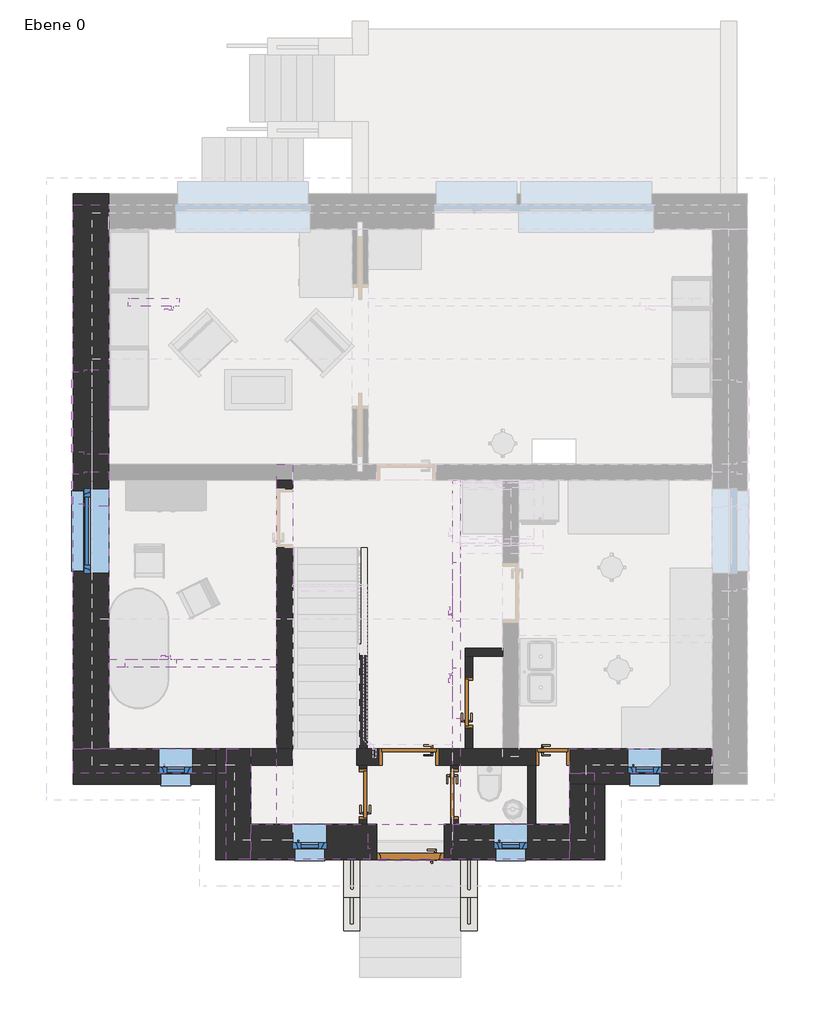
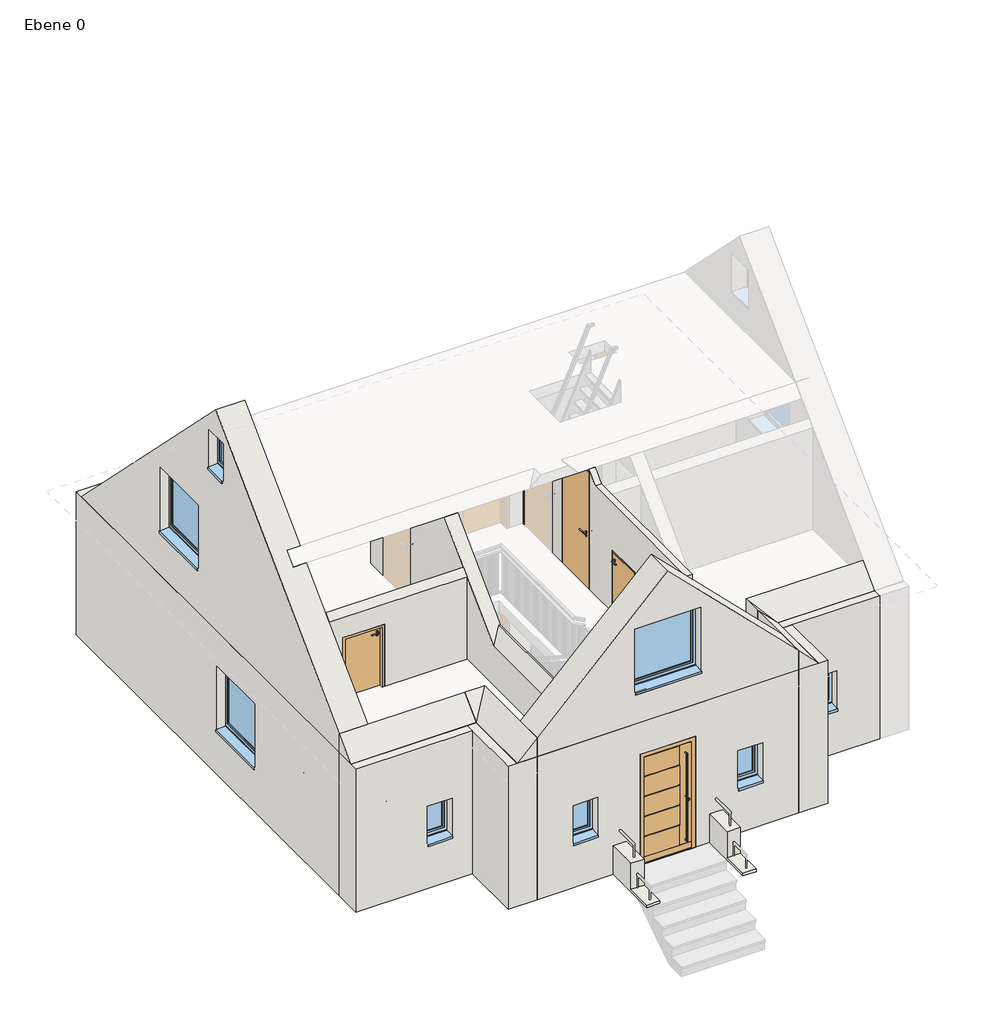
# One storey, part 1 of 3: 26 walls, 10 doors, 8 windows.
"""IFC4 building model written with IfcOpenShell, lengths in millimetres."""

from ifc_helpers import new_model, si_unit, frame, origin, place, context, project, spatial, polyline, outline, extrude, faceted_brep, transform, mapped, element, save
from components import door_d76ddd33, door_2d55e884, door_c0c9e2e8, door_1d4fa7a0, door_ae18e9e7, ml_1010_x_2135_97191e1a, ml_510_x_2137_2d006b58, ml_760_x_1200_513c8107, ml_760_x_1200_4ba6731c, fe_1_tlg_drehkipp_1260_x_1260_6cbcbbed, fe_1_tlg_drehkipp_510_x_760_2ecf23b0

model = new_model("IFC4")

# Units and contexts
model_context = context("Model", 3, world=origin())
ifc_project = project(units=[si_unit("LENGTHUNIT", "METRE", prefix="MILLI")], contexts=[model_context])

# Site, building, storey
site = spatial("IfcSite", under=ifc_project)
building = spatial("IfcBuilding", under=site)
storey = spatial("IfcBuildingStorey", under=building, Name="Ebene 0", Elevation=1000.0)

# Doors
placement = place(None, origin())
door_shape = door_d76ddd33(model_context)
element("IfcDoor", 1, ObjectType="TU DF 1 - Rahmenstock flächenbündig variabel : ML - H - 885 x 2260", at=placement, inside=storey, context=model_context, shape_type="MappedRepresentation", body=[
    mapped(door_shape, transform((3622.5, 2182.5, 1000.0), x_axis=(0.0, 1.0, 0.0), y_axis=(-1.0, 0.0, 0.0), z_axis=(0.0, 0.0, 1.0))),
])
door_2_shape = door_2d55e884(model_context)
element("IfcDoor", 2, ObjectType="TU DF 1 - Rahmenstock flächenbündig variabel : ML - H - 885 x 2260", at=placement, inside=storey, context=model_context, shape_type="MappedRepresentation", body=[
    mapped(door_2_shape, transform((3402.5, 811.4208156, 1000.0), x_axis=(0.0, -1.0, 0.0), y_axis=(1.0, 0.0, 0.0), z_axis=(0.0, 0.0, 1.0))),
])
door_3_shape = door_c0c9e2e8(model_context)
element("IfcDoor", 3, ObjectType="TU DF 1 - Rahmenstock flächenbündig variabel : ML - H - 885 x 2260", at=placement, inside=storey, context=model_context, shape_type="MappedRepresentation", body=[
    mapped(door_3_shape, transform((3432.5, 3837.5, 3750.0), x_axis=(0.0, 1.0, 0.0), y_axis=(-1.0, 0.0, 0.0), z_axis=(0.0, 0.0, 1.0))),
])
door_4_shape = door_1d4fa7a0(model_context)
element("IfcDoor", 4, ObjectType="TU DF 1 - Rahmenstock flächenbündig variabel : ML - H - 885 x 2010", at=placement, inside=storey, context=model_context, shape_type="MappedRepresentation", body=[
    mapped(door_4_shape, transform((2037.5, 811.4208156, 1000.0), x_axis=(0.0, 1.0, 0.0), y_axis=(-1.0, 0.0, 0.0), z_axis=(0.0, 0.0, 1.0))),
])
door_5_shape = door_ae18e9e7(model_context)
element("IfcDoor", 5, ObjectType="TU DF 1 - Rahmenstock flächenbündig variabel : ML - H - 885 x 2010", at=placement, inside=storey, context=model_context, shape_type="MappedRepresentation", body=[
    mapped(door_5_shape, transform((2725.0, 1370.0, 1000.0), x_axis=(-1.0, 0.0, 0.0), y_axis=(0.0, -1.0, 0.0), z_axis=(0.0, 0.0, 1.0))),
])
ml_1010_x_2135_shape = ml_1010_x_2135_97191e1a(model_context)
element("IfcDoor", 6, ObjectType="TU DF 1 - Haustüre : ML - 1010 x 2135", at=placement, inside=storey, context=model_context, shape_type="MappedRepresentation", body=[
    mapped(ml_1010_x_2135_shape, transform((2745.0, 102.5, 1000.0), x_axis=(1.0, 0.0, 0.0), y_axis=(0.0, 1.0, 0.0), z_axis=(0.0, 0.0, 1.0))),
])
ml_510_x_2137_shape = ml_510_x_2137_2d006b58(model_context)
element("IfcDoor", 7, ObjectType="TU DF 1 - Rahmenstock flächenbündig : ML -510 x 2137", at=placement, inside=storey, context=model_context, shape_type="MappedRepresentation", body=[
    mapped(ml_510_x_2137_shape, transform((4870.0, 1370.0, 1000.0), x_axis=(1.0, 0.0, 0.0), y_axis=(0.0, 1.0, 0.0), z_axis=(0.0, 0.0, 1.0))),
])
ml_760_x_1200_shape = ml_760_x_1200_513c8107(model_context)
element("IfcDoor", 8, ObjectType="TU DF 1 - Rahmenstock flächenbündig : ML -760 x 1200", at=placement, inside=storey, context=model_context, shape_type="MappedRepresentation", body=[
    mapped(ml_760_x_1200_shape, transform((-1130.0, 2767.5, 3750.0), x_axis=(-1.0, 0.0, 0.0), y_axis=(0.0, -1.0, 0.0), z_axis=(0.0, 0.0, 1.0))),
])
element("IfcDoor", 9, ObjectType="TU DF 1 - Rahmenstock flächenbündig : ML -760 x 1200", at=placement, inside=storey, context=model_context, shape_type="MappedRepresentation", body=[
    mapped(ml_760_x_1200_shape, transform((3432.5, 2320.0, 3750.0), x_axis=(0.0, -1.0, 0.0), y_axis=(1.0, 0.0, 0.0), z_axis=(0.0, 0.0, 1.0))),
])
ml_760_x_1200_2_shape = ml_760_x_1200_4ba6731c(model_context)
element("IfcDoor", 10, ObjectType="TU DF 1 - Rahmenstock flächenbündig : ML -760 x 1200", at=placement, inside=storey, context=model_context, shape_type="MappedRepresentation", body=[
    mapped(ml_760_x_1200_2_shape, transform((-1085.0, 8157.5, 3750.0), x_axis=(-1.0, 0.0, 0.0), y_axis=(0.0, -1.0, 0.0), z_axis=(0.0, 0.0, 1.0))),
])

# Walls
element("IfcWall", 11, ObjectType="Ziegel+WD hart 365+140+2", at=placement, inside=storey, context=model_context, shape_type="Brep", body=[
    faceted_brep([(365.0, -160.0, 1000.0), (365.0, 365.0, 1000.0), (365.0, 1250.0, 1000.0), (365.0, 1490.0, 1000.0), (365.0, 1490.0, 3550.0), (365.0, 1250.0, 3550.0), (365.0, 365.0, 3550.0), (365.0, 125.0, 3550.0), (365.0, 125.0, 3750.0), (365.0, -160.0, 3750.0), (-160.0, 1490.0, 1000.0), (-160.0, 965.0, 1000.0), (-160.0, -160.0, 1000.0), (-160.0, -160.0, 3750.0), (-160.0, 965.0, 3750.0), (-160.0, 1250.0, 3750.0), (-160.0, 1250.0, 3550.0), (-160.0, 1490.0, 3550.0), (125.0, 125.0, 3750.0), (125.0, 1250.0, 3750.0), (125.0, 1250.0, 3550.0), (125.0, 125.0, 3550.0)], [[[0, 1, 2, 3, 4, 5, 6, 7, 8, 9]], [[10, 11, 12, 13, 14, 15, 16, 17]], [[3, 2, 1, 0, 12, 11, 10]], [[13, 9, 8, 18, 19, 15, 14]], [[0, 9, 13, 12]], [[3, 10, 17, 4]], [[20, 21, 7, 6, 5, 4, 17, 16]], [[21, 20, 19, 18]], [[19, 20, 16, 15]], [[21, 18, 8, 7]]]),
])
element("IfcWall", 12, ObjectType="Ziegel+WD hart 365+140+2", at=placement, inside=storey, context=model_context, shape_type="Brep", body=[
    faceted_brep([(-160.0, 1490.0, 1000.0), (-1760.0, 1490.0, 1000.0), (-2285.0, 1490.0, 1000.0), (-2285.0, 1490.0, 3750.0), (-2000.0, 1490.0, 3750.0), (-2000.0, 1490.0, 3550.0), (-1760.0, 1490.0, 3550.0), (-160.0, 1490.0, 3550.0), (-500.0, 1490.0, 2610.0), (-1010.0, 1490.0, 2610.0), (-1010.0, 1490.0, 1850.0), (-500.0, 1490.0, 1850.0), (-2285.0, 965.0, 1000.0), (-160.0, 965.0, 1000.0), (-160.0, 965.0, 3750.0), (-2285.0, 965.0, 3750.0), (-980.0, 965.0, 1860.0), (-980.0, 965.0, 2580.0), (-530.0, 965.0, 2580.0), (-530.0, 965.0, 1860.0), (-160.0, 1250.0, 3750.0), (-2000.0, 1250.0, 3750.0), (-2285.0, 1125.0, 3750.0), (-500.0, 1125.0, 2610.0), (-1010.0, 1125.0, 2610.0), (-500.0, 1125.0, 1850.0), (-1010.0, 1125.0, 1850.0), (-980.0, 1125.0, 2580.0), (-980.0, 1125.0, 1870.0), (-530.0, 1125.0, 1870.0), (-530.0, 1125.0, 2580.0), (-2000.0, 1250.0, 3550.0), (-160.0, 1250.0, 3550.0)], [[[0, 1, 2, 3, 4, 5, 6, 7], [8, 9, 10, 11]], [[12, 13, 14, 15], [16, 17, 18, 19]], [[2, 1, 0, 13, 12]], [[15, 14, 20, 21, 4, 3, 22]], [[3, 2, 12, 15, 22]], [[23, 24, 9, 8]], [[25, 11, 10, 26]], [[23, 8, 11, 25]], [[9, 24, 26, 10]], [[24, 23, 25, 26], [27, 28, 29, 30]], [[28, 27, 17, 16]], [[29, 28, 16, 19]], [[30, 29, 19, 18]], [[27, 30, 18, 17]], [[5, 31, 32, 7, 6]], [[31, 21, 20, 32]], [[21, 31, 5, 4]], [[13, 0, 7, 32, 20, 14]]]),
])
element("IfcWall", 13, ObjectType="Ziegel+WD hart 365+140+2", at=placement, inside=storey, context=model_context, shape_type="Brep", body=[
    faceted_brep([(-1760.0, 1490.0, 1000.0), (-1760.0, 5500.0, 1000.0), (-1760.0, 5740.0, 1000.0), (-1760.0, 9250.0, 1000.0), (-1760.0, 9775.0, 1000.0), (-1760.0, 9775.0, 3750.0), (-1760.0, 9615.0, 3750.0), (-1760.0, 9490.0, 3750.0), (-1760.0, 9490.0, 3550.0), (-1760.0, 9250.0, 3550.0), (-1760.0, 5740.0, 3550.0), (-1760.0, 5500.0, 3550.0), (-1760.0, 1490.0, 3550.0), (-1760.0, 4115.0, 3110.0), (-1760.0, 5375.0, 3110.0), (-1760.0, 5375.0, 1850.0), (-1760.0, 4115.0, 1850.0), (-2285.0, 9775.0, 1000.0), (-2285.0, 1490.0, 1000.0), (-2285.0, 1490.0, 3750.0), (-2285.0, 9615.0, 3750.0), (-2285.0, 9775.0, 3750.0), (-2285.0, 5345.0, 1860.0), (-2285.0, 5345.0, 3080.0), (-2285.0, 4145.0, 3080.0), (-2285.0, 4145.0, 1860.0), (-2000.0, 1490.0, 3750.0), (-2000.0, 9490.0, 3750.0), (-2000.0, 1490.0, 3550.0), (-2000.0, 9490.0, 3550.0), (-2125.0, 4115.0, 3110.0), (-2125.0, 5375.0, 3110.0), (-2125.0, 4115.0, 1850.0), (-2125.0, 5375.0, 1850.0), (-2125.0, 5345.0, 3080.0), (-2125.0, 5345.0, 1870.0), (-2125.0, 4145.0, 1870.0), (-2125.0, 4145.0, 3080.0)], [[[0, 1, 2, 3, 4, 5, 6, 7, 8, 9, 10, 11, 12], [13, 14, 15, 16]], [[17, 18, 19, 20, 21], [22, 23, 24, 25]], [[4, 3, 2, 1, 0, 18, 17]], [[21, 20, 19, 26, 27, 7, 6, 5]], [[19, 18, 0, 12, 28, 26]], [[5, 4, 17, 21]], [[29, 28, 12, 11, 10, 9, 8]], [[27, 29, 8, 7]], [[29, 27, 26, 28]], [[30, 31, 14, 13]], [[32, 16, 15, 33]], [[30, 13, 16, 32]], [[14, 31, 33, 15]], [[31, 30, 32, 33], [34, 35, 36, 37]], [[35, 34, 23, 22]], [[36, 35, 22, 25]], [[37, 36, 25, 24]], [[34, 37, 24, 23]]]),
])
element("IfcWall", 14, ObjectType="Ziegel+WD hart 365+140+2", at=placement, inside=storey, context=model_context, shape_type="Brep", body=[
    faceted_brep([(7250.0, 1490.0, 1000.0), (5125.0, 1490.0, 1000.0), (5125.0, 1490.0, 3135.0), (5125.0, 1490.0, 3550.0), (7250.0, 1490.0, 3550.0), (6500.0, 1490.0, 2610.0), (5990.0, 1490.0, 2610.0), (5990.0, 1490.0, 1850.0), (6500.0, 1490.0, 1850.0), (5125.0, 965.0, 1000.0), (5650.0, 965.0, 1000.0), (7250.0, 965.0, 1000.0), (7250.0, 965.0, 3750.0), (5650.0, 965.0, 3750.0), (5365.0, 965.0, 3750.0), (5365.0, 965.0, 3550.0), (5125.0, 965.0, 3550.0), (6020.0, 965.0, 1860.0), (6020.0, 965.0, 2580.0), (6470.0, 965.0, 2580.0), (6470.0, 965.0, 1860.0), (7250.0, 1250.0, 3750.0), (5365.0, 1250.0, 3750.0), (7250.0, 1250.0, 3550.0), (6500.0, 1125.0, 2610.0), (5990.0, 1125.0, 2610.0), (6500.0, 1125.0, 1850.0), (5990.0, 1125.0, 1850.0), (6020.0, 1125.0, 2580.0), (6020.0, 1125.0, 1870.0), (6470.0, 1125.0, 1870.0), (6470.0, 1125.0, 2580.0), (5125.0, 1250.0, 3550.0), (5365.0, 1250.0, 3550.0)], [[[0, 1, 2, 3, 4], [5, 6, 7, 8]], [[9, 10, 11, 12, 13, 14, 15, 16], [17, 18, 19, 20]], [[1, 0, 11, 10, 9]], [[14, 13, 12, 21, 22]], [[12, 11, 0, 4, 23, 21]], [[24, 25, 6, 5]], [[26, 8, 7, 27]], [[24, 5, 8, 26]], [[6, 25, 27, 7]], [[25, 24, 26, 27], [28, 29, 30, 31]], [[29, 28, 18, 17]], [[30, 29, 17, 20]], [[31, 30, 20, 19]], [[28, 31, 19, 18]], [[1, 9, 16, 32, 3, 2]], [[15, 33, 23, 4, 3, 32, 16]], [[33, 22, 21, 23]], [[22, 33, 15, 14]]]),
])
element("IfcWall", 15, ObjectType="Ziegel+WD hart 365+140+2", at=placement, inside=storey, context=model_context, shape_type="Brep", body=[
    faceted_brep([(5125.0, 965.0, 1000.0), (5125.0, 365.0, 1000.0), (5125.0, -160.0, 1000.0), (5125.0, -160.0, 3750.0), (5125.0, 125.0, 3750.0), (5125.0, 125.0, 3550.0), (5125.0, 365.0, 3550.0), (5125.0, 965.0, 3550.0), (5650.0, -160.0, 1000.0), (5650.0, 965.0, 1000.0), (5650.0, 965.0, 3750.0), (5650.0, -160.0, 3750.0), (5365.0, 965.0, 3750.0), (5365.0, 125.0, 3750.0), (5365.0, 965.0, 3550.0), (5365.0, 125.0, 3550.0)], [[[0, 1, 2, 3, 4, 5, 6, 7]], [[8, 9, 10, 11]], [[2, 1, 0, 9, 8]], [[11, 10, 12, 13, 4, 3]], [[3, 2, 8, 11]], [[9, 0, 7, 14, 12, 10]], [[5, 15, 14, 7, 6]], [[15, 13, 12, 14]], [[13, 15, 5, 4]]]),
])
element("IfcWall", 16, ObjectType="Ziegel+WD hart 365+140+2", at=placement, inside=storey, context=model_context, shape_type="Brep", body=[
    faceted_brep([(5125.0, 365.0, 1000.0), (3250.0, 365.0, 1000.0), (3250.0, 365.0, 3135.0), (2240.0, 365.0, 3135.0), (2240.0, 365.0, 1000.0), (365.0, 365.0, 1000.0), (365.0, 365.0, 3550.0), (990.0, 365.0, 3550.0), (990.0, 365.0, 3750.0), (3375.0, 365.0, 3750.0), (3375.0, 365.0, 3550.0), (5125.0, 365.0, 3550.0), (1500.0, 365.0, 2610.0), (990.0, 365.0, 2610.0), (990.0, 365.0, 1850.0), (1500.0, 365.0, 1850.0), (4500.0, 365.0, 2610.0), (3990.0, 365.0, 2610.0), (3990.0, 365.0, 1850.0), (4500.0, 365.0, 1850.0), (5125.0, -160.0, 3750.0), (365.0, -160.0, 3750.0), (365.0, -160.0, 1000.0), (1750.0, -160.0, 1000.0), (1990.0, -160.0, 1000.0), (2240.0, -160.0, 1000.0), (2240.0, -160.0, 3135.0), (3250.0, -160.0, 3135.0), (3250.0, -160.0, 1000.0), (3500.0, -160.0, 1000.0), (3740.0, -160.0, 1000.0), (5125.0, -160.0, 1000.0), (1020.0, -160.0, 1860.0), (1020.0, -160.0, 2580.0), (1470.0, -160.0, 2580.0), (1470.0, -160.0, 1860.0), (4020.0, -160.0, 1860.0), (4020.0, -160.0, 2580.0), (4470.0, -160.0, 2580.0), (4470.0, -160.0, 1860.0), (5125.0, 125.0, 3750.0), (3375.0, 125.0, 3750.0), (990.0, 125.0, 3750.0), (365.0, 125.0, 3750.0), (365.0, 125.0, 3550.0), (5125.0, 125.0, 3550.0), (1500.0, 0.0, 2610.0), (990.0, 0.0, 2610.0), (1500.0, 0.0, 1850.0), (990.0, 0.0, 1850.0), (1020.0, 0.0, 2580.0), (1020.0, 0.0, 1870.0), (1470.0, 0.0, 1870.0), (1470.0, 0.0, 2580.0), (4500.0, 0.0, 2610.0), (3990.0, 0.0, 2610.0), (4500.0, 0.0, 1850.0), (3990.0, 0.0, 1850.0), (4020.0, 0.0, 2580.0), (4020.0, 0.0, 1870.0), (4470.0, 0.0, 1870.0), (4470.0, 0.0, 2580.0), (3375.0, 125.0, 3550.0), (990.0, 125.0, 3550.0)], [[[0, 1, 2, 3, 4, 5, 6, 7, 8, 9, 10, 11], [12, 13, 14, 15], [16, 17, 18, 19]], [[20, 21, 22, 23, 24, 25, 26, 27, 28, 29, 30, 31], [32, 33, 34, 35], [36, 37, 38, 39]], [[0, 31, 30, 29, 28, 1]], [[22, 5, 4, 25, 24, 23]], [[21, 20, 40, 41, 9, 8, 42, 43]], [[5, 22, 21, 43, 44, 6]], [[20, 31, 0, 11, 45, 40]], [[46, 47, 13, 12]], [[48, 15, 14, 49]], [[46, 12, 15, 48]], [[13, 47, 49, 14]], [[47, 46, 48, 49], [50, 51, 52, 53]], [[51, 50, 33, 32]], [[52, 51, 32, 35]], [[53, 52, 35, 34]], [[50, 53, 34, 33]], [[54, 55, 17, 16]], [[56, 19, 18, 57]], [[54, 16, 19, 56]], [[17, 55, 57, 18]], [[55, 54, 56, 57], [58, 59, 60, 61]], [[59, 58, 37, 36]], [[60, 59, 36, 39]], [[61, 60, 39, 38]], [[58, 61, 38, 37]], [[26, 3, 2, 27]], [[27, 2, 1, 28]], [[3, 26, 25, 4]], [[10, 62, 45, 11]], [[44, 63, 7, 6]], [[62, 41, 40, 45]], [[63, 42, 8, 7]], [[41, 62, 10, 9]], [[42, 63, 44, 43]]]),
])
element("IfcWall", 17, ObjectType="Ziegel+WD hart 365+140+2", at=placement, inside=storey, context=model_context, shape_type="Brep", body=[
    faceted_brep([(-1760.0, 1490.0, 3750.0), (-1760.0, 9250.0, 3750.0), (-1760.0, 9490.0, 3750.0), (-1760.0, 9615.0, 3750.0), (-1760.0, 9615.0, 3753.0508653), (-1760.0, 9611.9491347, 3753.0508653), (-1760.0, 9250.0, 4115.0), (-1760.0, 7315.0, 6050.0), (-1760.0, 3425.0, 6050.0), (-1760.0, 1490.0, 4115.0), (-1760.0, 5890.0, 5860.0), (-1760.0, 7150.0, 5860.0), (-1760.0, 7150.0, 4600.0), (-1760.0, 5890.0, 4600.0), (-1760.0, 7115.0, 6250.0), (-1760.0, 5370.0, 7995.0), (-1760.0, 3625.0, 6250.0), (-1760.0, 5115.0, 7510.0), (-1760.0, 5625.0, 7510.0), (-1760.0, 5625.0, 6750.0), (-1760.0, 5115.0, 6750.0), (-2285.0, 9615.0, 3750.0), (-2285.0, 1490.0, 3750.0), (-2285.0, 1490.0, 4115.0), (-2285.0, 5370.0, 7995.0), (-2285.0, 9611.9491347, 3753.0508653), (-2285.0, 9615.0, 3753.0508653), (-2285.0, 7120.0, 4610.0), (-2285.0, 7120.0, 5830.0), (-2285.0, 5920.0, 5830.0), (-2285.0, 5920.0, 4610.0), (-2285.0, 5595.0, 6760.0), (-2285.0, 5595.0, 7480.0), (-2285.0, 5145.0, 7480.0), (-2285.0, 5145.0, 6760.0), (-2000.0, 1490.0, 3750.0), (-2125.0, 5890.0, 5860.0), (-2125.0, 7150.0, 5860.0), (-2125.0, 5890.0, 4600.0), (-2125.0, 7150.0, 4600.0), (-2125.0, 7120.0, 5830.0), (-2125.0, 7120.0, 4620.0), (-2125.0, 5920.0, 4620.0), (-2125.0, 5920.0, 5830.0), (-2000.0, 7315.0, 6050.0), (-2000.0, 3425.0, 6050.0), (-2000.0, 3625.0, 6250.0), (-2000.0, 7115.0, 6250.0), (-2125.0, 5115.0, 7510.0), (-2125.0, 5625.0, 7510.0), (-2125.0, 5115.0, 6750.0), (-2125.0, 5625.0, 6750.0), (-2125.0, 5595.0, 7480.0), (-2125.0, 5595.0, 6770.0), (-2125.0, 5145.0, 6770.0), (-2125.0, 5145.0, 7480.0)], [[[0, 1, 2, 3, 4, 5, 6, 7, 8, 9], [10, 11, 12, 13]], [[14, 15, 16], [17, 18, 19, 20]], [[21, 22, 23, 24, 25, 26], [27, 28, 29, 30], [31, 32, 33, 34]], [[3, 2, 1, 0, 35, 22, 21]], [[0, 9, 23, 22, 35]], [[4, 3, 21, 26]], [[36, 37, 11, 10]], [[38, 13, 12, 39]], [[36, 10, 13, 38]], [[11, 37, 39, 12]], [[37, 36, 38, 39], [40, 41, 42, 43]], [[41, 40, 28, 27]], [[42, 41, 27, 30]], [[43, 42, 30, 29]], [[40, 43, 29, 28]], [[44, 45, 8, 7]], [[46, 47, 14, 16]], [[45, 44, 47, 46]], [[23, 9, 8, 45, 46, 16, 15, 24]], [[25, 24, 15, 14, 47, 44, 7, 6, 5]], [[4, 26, 25, 5]], [[48, 49, 18, 17]], [[50, 20, 19, 51]], [[48, 17, 20, 50]], [[18, 49, 51, 19]], [[49, 48, 50, 51], [52, 53, 54, 55]], [[53, 52, 32, 31]], [[54, 53, 31, 34]], [[55, 54, 34, 33]], [[52, 55, 33, 32]]]),
])
element("IfcWall", 18, ObjectType="Ziegel+WD hart 365+140+2", at=placement, inside=storey, context=model_context, shape_type="Brep", body=[
    faceted_brep([(5125.0, 365.0, 3750.0), (365.0, 365.0, 3750.0), (365.0, 365.0, 4115.0), (2745.0, 365.0, 6495.0), (5125.0, 365.0, 4115.0), (3375.0, 365.0, 5610.0), (2115.0, 365.0, 5610.0), (2115.0, 365.0, 4350.0), (3375.0, 365.0, 4350.0), (5125.0, -160.0, 3750.0), (5125.0, -160.0, 4115.0), (2745.0, -160.0, 6495.0), (365.0, -160.0, 4115.0), (365.0, -160.0, 3750.0), (2145.0, -160.0, 4360.0), (2145.0, -160.0, 5580.0), (3345.0, -160.0, 5580.0), (3345.0, -160.0, 4360.0), (3375.0, 0.0, 5610.0), (2115.0, 0.0, 5610.0), (3375.0, 0.0, 4350.0), (2115.0, 0.0, 4350.0), (2145.0, 0.0, 5580.0), (2145.0, 0.0, 4370.0), (3345.0, 0.0, 4370.0), (3345.0, 0.0, 5580.0)], [[[0, 1, 2, 3, 4], [5, 6, 7, 8]], [[9, 10, 11, 12, 13], [14, 15, 16, 17]], [[1, 0, 9, 13]], [[2, 1, 13, 12]], [[0, 4, 10, 9]], [[18, 19, 6, 5]], [[20, 8, 7, 21]], [[18, 5, 8, 20]], [[6, 19, 21, 7]], [[19, 18, 20, 21], [22, 23, 24, 25]], [[14, 23, 22, 15]], [[23, 14, 17, 24]], [[24, 17, 16, 25]], [[15, 22, 25, 16]], [[4, 3, 11, 10]], [[3, 2, 12, 11]]]),
])
element("IfcWall", 19, ObjectType="Klinker 240", at=placement, inside=storey, context=model_context, shape_type="SweptSolid", body=[
    extrude(outline(polyline([(-160.0, 1000.0), (-1220.0, 1000.0), (-1220.0, 1050.0), (-720.0, 1050.0), (-720.0, 1550.0), (-160.0, 1550.0), (-160.0, 1000.0)])), frame((1750.0, 0.0, 0.0), z_axis=(1.0, 0.0, 0.0), x_axis=(0.0, 1.0, 0.0)), (0.0, 0.0, 1.0), 240.0),
])
element("IfcWall", 20, ObjectType="Klinker 240", at=placement, inside=storey, context=model_context, shape_type="SweptSolid", body=[
    extrude(outline(polyline([(-160.0, 1000.0), (-1220.0, 1000.0), (-1220.0, 1050.0), (-720.0, 1050.0), (-720.0, 1550.0), (-160.0, 1550.0), (-160.0, 1000.0)])), frame((3500.0, 0.0, 0.0), z_axis=(1.0, 0.0, 0.0), x_axis=(0.0, 1.0, 0.0)), (0.0, 0.0, 1.0), 240.0),
])
element("IfcWall", 21, ObjectType="Ziegel 115", at=placement, inside=storey, context=model_context, shape_type="Brep", body=[
    faceted_brep([(4125.0, 2990.0, 1000.0), (3565.0, 2990.0, 1000.0), (3565.0, 2990.0, 3550.0), (4125.0, 2990.0, 3550.0), (4125.0, 2875.0, 1000.0), (4125.0, 2875.0, 3550.0), (3680.0, 2875.0, 3550.0), (3565.0, 2875.0, 3550.0), (3565.0, 2875.0, 1000.0), (3680.0, 2875.0, 1000.0)], [[[0, 1, 2, 3]], [[4, 5, 6, 7, 8, 9]], [[1, 0, 4, 9, 8]], [[0, 3, 5, 4]], [[2, 1, 8, 7]], [[3, 2, 7, 6, 5]]]),
])
element("IfcWall", 22, ObjectType="Ziegel 115", at=placement, inside=storey, context=model_context, shape_type="SweptSolid", body=[
    extrude(outline(polyline([(2875.0, 3550.0), (2875.0, 1000.0), (2562.5, 1000.0), (2562.5, 3260.0), (1802.5, 3260.0), (1802.5, 1000.0), (1490.0, 1000.0), (1490.0, 3550.0), (2875.0, 3550.0)])), frame((3565.0, 0.0, 0.0), z_axis=(1.0, 0.0, 0.0), x_axis=(0.0, 1.0, 0.0)), (0.0, 0.0, 1.0), 115.0),
])
element("IfcWall", 23, ObjectType="Ziegel 115", at=placement, inside=storey, context=model_context, shape_type="SweptSolid", body=[
    extrude(outline(polyline([(4500.0, 365.0), (4500.0, 1250.0), (4615.0, 1250.0), (4615.0, 365.0), (4500.0, 365.0)])), frame((0.0, 0.0, 1000.0), z_axis=(0.0, 0.0, 1.0), x_axis=(1.0, 0.0, 0.0)), (0.0, 0.0, 1.0), 2550.0),
])
element("IfcWall", 24, ObjectType="Ziegel 115", at=placement, inside=storey, context=model_context, shape_type="Brep", body=[
    faceted_brep([(3345.0, 365.0, 3550.0), (3345.0, 1250.0, 3550.0), (3345.0, 1250.0, 1000.0), (3345.0, 1191.4208156, 1000.0), (3345.0, 1191.4208156, 3260.0), (3345.0, 431.4208156, 3260.0), (3345.0, 431.4208156, 1000.0), (3345.0, 365.0, 1000.0), (3460.0, 365.0, 3550.0), (3460.0, 365.0, 1000.0), (3460.0, 431.4208156, 1000.0), (3460.0, 431.4208156, 3260.0), (3460.0, 1191.4208156, 3260.0), (3460.0, 1191.4208156, 1000.0), (3460.0, 1250.0, 1000.0), (3460.0, 1250.0, 3550.0), (3375.0, 365.0, 3550.0), (3375.0, 1250.0, 3550.0)], [[[0, 1, 2, 3, 4, 5, 6, 7]], [[8, 9, 10, 11, 12, 13, 14, 15]], [[9, 7, 6, 10]], [[2, 14, 13, 3]], [[0, 7, 9, 8, 16]], [[2, 1, 17, 15, 14]], [[5, 11, 10, 6]], [[11, 5, 4, 12]], [[12, 4, 3, 13]], [[1, 0, 16, 17]], [[8, 15, 17, 16]]]),
])
element("IfcWall", 25, ObjectType="Ziegel 115", at=placement, inside=storey, context=model_context, shape_type="SweptSolid", body=[
    extrude(outline(polyline([(365.0, 3200.0), (1250.0, 3200.0), (1250.0, 1000.0), (1191.4208156, 1000.0), (1191.4208156, 3010.0), (431.4208156, 3010.0), (431.4208156, 1000.0), (365.0, 1000.0), (365.0, 3200.0)])), frame((1980.0, 0.0, 0.0), z_axis=(1.0, 0.0, 0.0), x_axis=(0.0, 1.0, 0.0)), (0.0, 0.0, 1.0), 115.0),
])
element("IfcWall", 26, ObjectType="Ziegel 115", at=placement, inside=storey, context=model_context, shape_type="Brep", body=[
    faceted_brep([(2105.0, 4490.0, 1000.0), (2105.0, 4490.0, 1140.2206905), (2105.0, 1490.0, 3113.0886136), (2105.0, 1490.0, 1000.0), (2105.0, 1901.7647059, 1000.0), (1990.0, 4490.0, 1000.0), (1990.0, 1901.7647059, 1000.0), (1990.0, 1490.0, 1000.0), (1990.0, 1490.0, 3113.0886136), (1990.0, 4490.0, 1140.2206905)], [[[0, 1, 2, 3, 4]], [[5, 6, 7, 8, 9]], [[0, 4, 3, 7, 6, 5]], [[3, 2, 8, 7]], [[1, 0, 5, 9]], [[2, 1, 9, 8]]]),
])
element("IfcWall", 27, ObjectType="Ziegel 115", at=placement, inside=storey, context=model_context, shape_type="Brep", body=[
    faceted_brep([(3375.0, 5500.0, 6050.0), (3375.0, 5500.0, 3750.0), (3375.0, 5452.5, 3750.0), (3375.0, 5452.5, 6010.0), (3375.0, 4567.5, 6010.0), (3375.0, 4567.5, 3750.0), (3375.0, 4280.0, 3750.0), (3375.0, 4280.0, 6010.0), (3375.0, 3395.0, 6010.0), (3375.0, 3395.0, 3750.0), (3375.0, 2700.0, 3750.0), (3375.0, 2700.0, 4950.0), (3375.0, 1940.0, 4950.0), (3375.0, 1940.0, 3750.0), (3375.0, 365.0, 3750.0), (3375.0, 365.0, 5850.0), (3375.0, 3225.0, 5850.0), (3375.0, 3425.0, 6050.0), (3490.0, 5500.0, 3750.0), (3490.0, 5500.0, 6050.0), (3490.0, 4520.0, 6050.0), (3490.0, 4405.0, 6050.0), (3490.0, 3425.0, 6050.0), (3490.0, 3225.0, 5850.0), (3490.0, 365.0, 5850.0), (3490.0, 365.0, 3750.0), (3490.0, 1940.0, 3750.0), (3490.0, 1940.0, 4950.0), (3490.0, 2700.0, 4950.0), (3490.0, 2700.0, 3750.0), (3490.0, 3395.0, 3750.0), (3490.0, 3395.0, 6010.0), (3490.0, 4280.0, 6010.0), (3490.0, 4280.0, 3750.0), (3490.0, 4405.0, 3750.0), (3490.0, 4520.0, 3750.0), (3490.0, 4567.5, 3750.0), (3490.0, 4567.5, 6010.0), (3490.0, 5452.5, 6010.0), (3490.0, 5452.5, 3750.0)], [[[0, 1, 2, 3, 4, 5, 6, 7, 8, 9, 10, 11, 12, 13, 14, 15, 16, 17]], [[18, 19, 20, 21, 22, 23, 24, 25, 26, 27, 28, 29, 30, 31, 32, 33, 34, 35, 36, 37, 38, 39]], [[1, 0, 19, 18]], [[15, 14, 25, 24]], [[38, 3, 2, 39]], [[4, 37, 36, 5]], [[3, 38, 37, 4]], [[2, 1, 18, 39]], [[25, 14, 13, 26]], [[5, 36, 35, 34, 33, 6]], [[9, 30, 29, 10]], [[16, 15, 24, 23]], [[17, 16, 23, 22]], [[32, 7, 6, 33]], [[8, 31, 30, 9]], [[7, 32, 31, 8]], [[19, 0, 17, 22, 21, 20]], [[12, 27, 26, 13]], [[28, 11, 10, 29]], [[27, 12, 11, 28]]]),
])
element("IfcWall", 28, ObjectType="Ziegel 115", at=placement, inside=storey, context=model_context, shape_type="Brep", body=[
    faceted_brep([(-1760.0, 2710.0, 5335.0), (-1760.0, 2710.0, 3750.0), (-1510.0, 2710.0, 3750.0), (-1510.0, 2710.0, 4950.0), (-750.0, 2710.0, 4950.0), (-750.0, 2710.0, 3750.0), (750.0, 2710.0, 3750.0), (750.0, 2710.0, 5335.0), (-1760.0, 2825.0, 3750.0), (-1760.0, 2825.0, 5450.0), (750.0, 2825.0, 5450.0), (750.0, 2825.0, 3750.0), (-750.0, 2825.0, 3750.0), (-750.0, 2825.0, 4950.0), (-1510.0, 2825.0, 4950.0), (-1510.0, 2825.0, 3750.0)], [[[0, 1, 2, 3, 4, 5, 6, 7]], [[8, 9, 10, 11, 12, 13, 14, 15]], [[1, 8, 15, 2]], [[11, 6, 5, 12]], [[1, 0, 9, 8]], [[7, 6, 11, 10]], [[0, 7, 10, 9]], [[14, 3, 2, 15]], [[4, 13, 12, 5]], [[3, 14, 13, 4]]]),
])
element("IfcWall", 29, ObjectType="Ziegel 240", at=placement, inside=storey, context=model_context, shape_type="Brep", body=[
    faceted_brep([(365.0, 1250.0, 1000.0), (985.0, 1250.0, 1000.0), (985.0, 1250.0, 3050.0), (990.0, 1250.0, 3050.0), (990.0, 1250.0, 3550.0), (365.0, 1250.0, 3550.0), (365.0, 1490.0, 1000.0), (365.0, 1490.0, 3550.0), (750.0, 1490.0, 3550.0), (990.0, 1490.0, 3550.0), (990.0, 1490.0, 3050.0), (985.0, 1490.0, 3050.0), (985.0, 1490.0, 1000.0), (750.0, 1490.0, 1000.0)], [[[0, 1, 2, 3, 4, 5]], [[6, 7, 8, 9, 10, 11, 12, 13]], [[1, 0, 6, 13, 12]], [[2, 1, 12, 11]], [[3, 2, 11, 10]], [[0, 5, 7, 6]], [[4, 3, 10, 9]], [[5, 4, 9, 8, 7]]]),
])
element("IfcWall", 30, ObjectType="Ziegel 240", at=placement, inside=storey, context=model_context, shape_type="Brep", body=[
    faceted_brep([(990.0, 5500.0, 1000.0), (990.0, 5500.0, 3550.0), (990.0, 3847.3, 3550.0), (990.0, 1490.0, 3550.0), (990.0, 1490.0, 3050.0), (990.0, 1490.0, 1000.0), (990.0, 4490.0, 1000.0), (990.0, 4490.0, 3260.0), (990.0, 5375.0, 3260.0), (990.0, 5375.0, 1000.0), (750.0, 1490.0, 3550.0), (750.0, 5500.0, 3550.0), (750.0, 5500.0, 1000.0), (750.0, 5375.0, 1000.0), (750.0, 5375.0, 3260.0), (750.0, 4490.0, 3260.0), (750.0, 4490.0, 1000.0), (750.0, 1490.0, 1000.0), (985.0, 1490.0, 1000.0)], [[[0, 1, 2, 3, 4, 5, 6, 7, 8, 9]], [[10, 11, 12, 13, 14, 15, 16, 17]], [[12, 0, 9, 13]], [[5, 18, 17, 16, 6]], [[1, 0, 12, 11]], [[8, 14, 13, 9]], [[15, 7, 6, 16]], [[14, 8, 7, 15]], [[11, 10, 3, 2, 1]], [[17, 18, 5, 4, 3, 10]]]),
])
element("IfcWall", 31, ObjectType="Ziegel 240", at=placement, inside=storey, context=model_context, shape_type="Brep", body=[
    faceted_brep([(990.0, 5375.0, 3750.0), (990.0, 5500.0, 3750.0), (990.0, 5740.0, 3750.0), (990.0, 5740.0, 6050.0), (990.0, 5500.0, 6050.0), (990.0, 3425.0, 6050.0), (990.0, 2085.0, 4710.0), (990.0, 365.0, 4710.0), (990.0, 365.0, 3750.0), (990.0, 4490.0, 3750.0), (990.0, 4490.0, 6010.0), (990.0, 5375.0, 6010.0), (750.0, 5740.0, 3750.0), (750.0, 5375.0, 3750.0), (750.0, 5375.0, 6010.0), (750.0, 4490.0, 6010.0), (750.0, 4490.0, 3750.0), (750.0, 365.0, 3750.0), (750.0, 365.0, 4500.0), (750.0, 1875.0, 4500.0), (750.0, 3425.0, 6050.0), (750.0, 5740.0, 6050.0), (960.0, 2085.0, 4710.0), (960.0, 365.0, 4710.0)], [[[0, 1, 2, 3, 4, 5, 6, 7, 8, 9, 10, 11]], [[12, 13, 14, 15, 16, 17, 18, 19, 20, 21]], [[11, 14, 13, 0]], [[15, 10, 9, 16]], [[14, 11, 10, 15]], [[3, 2, 12, 21]], [[9, 8, 17, 16]], [[2, 1, 0, 13, 12]], [[19, 22, 6, 5, 20]], [[7, 6, 22, 23]], [[8, 7, 23, 18, 17]], [[5, 4, 3, 21, 20]], [[22, 19, 18, 23]]]),
])
element("IfcWall", 32, ObjectType="Ziegel 240", at=placement, inside=storey, context=model_context, shape_type="SweptSolid", body=[
    extrude(outline(polyline([(3050.0, 2105.0), (3050.0, 1947.5), (1000.0, 1947.5), (1000.0, 2282.5), (3010.0, 2282.5), (3010.0, 3167.5), (1000.0, 3167.5), (1000.0, 4615.0), (3135.0, 4615.0), (3135.0, 5125.0), (3550.0, 5125.0), (3550.0, 3375.0), (3550.0, 3227.5), (3330.0, 3227.5), (3330.0, 2105.0), (3050.0, 2105.0)])), frame((0.0, 1250.0, 0.0), z_axis=(0.0, 1.0, 0.0), x_axis=(0.0, 0.0, 1.0)), (0.0, 0.0, 1.0), 240.0),
])
element("IfcWall", 33, ObjectType="Ziegel 365", at=placement, inside=storey, context=model_context, shape_type="Brep", body=[
    faceted_brep([(365.0, -160.0, 3750.0), (365.0, 365.0, 3750.0), (365.0, 1490.0, 3750.0), (365.0, 1490.0, 4115.0), (365.0, 365.0, 4115.0), (365.0, -160.0, 4115.0), (0.0, -160.0, 3750.0), (0.0, -160.0, 3753.0508653), (0.0, 1125.0, 3753.0508653), (0.0, 1128.0508653, 3753.0508653), (0.0, 1490.0, 4115.0), (0.0, 1490.0, 3750.0), (0.0, 1125.0, 3750.0), (3.0508653, -160.0, 3753.0508653), (3.0508653, 1128.0508653, 3753.0508653)], [[[0, 1, 2, 3, 4, 5]], [[6, 7, 8, 9, 10, 11, 12]], [[2, 1, 0, 6, 12, 11]], [[3, 2, 11, 10]], [[0, 5, 13, 7, 6]], [[5, 4, 3, 14, 13]], [[3, 10, 9, 14]], [[9, 8, 7, 13, 14]]]),
])
element("IfcWall", 34, ObjectType="Ziegel 365", at=placement, inside=storey, context=model_context, shape_type="Brep", body=[
    faceted_brep([(0.0, 1490.0, 3750.0), (-1760.0, 1490.0, 3750.0), (-2000.0, 1490.0, 3750.0), (-2285.0, 1490.0, 3750.0), (-2285.0, 1490.0, 4115.0), (-1760.0, 1490.0, 4115.0), (0.0, 1490.0, 4115.0), (0.0, 1125.0, 3750.0), (0.0, 1125.0, 3753.0508653), (-2285.0, 1125.0, 3753.0508653), (-2285.0, 1125.0, 3750.0), (0.0, 1128.0508653, 3753.0508653), (-2285.0, 1128.0508653, 3753.0508653)], [[[0, 1, 2, 3, 4, 5, 6]], [[7, 8, 9, 10]], [[3, 2, 1, 0, 7, 10]], [[0, 6, 11, 8, 7]], [[4, 3, 10, 9, 12]], [[6, 5, 4, 12, 11]], [[12, 9, 8, 11]]]),
])
element("IfcWall", 35, ObjectType="Ziegel 365", at=placement, inside=storey, context=model_context, shape_type="Brep", body=[
    faceted_brep([(7250.0, 1490.0, 3750.0), (5125.0, 1490.0, 3750.0), (5125.0, 1490.0, 4115.0), (7250.0, 1490.0, 4115.0), (7250.0, 1125.0, 3750.0), (7250.0, 1125.0, 3753.0508653), (5490.0, 1125.0, 3753.0508653), (5486.9491347, 1125.0, 3753.0508653), (5125.0, 1125.0, 4115.0), (5125.0, 1125.0, 3750.0), (5490.0, 1125.0, 3750.0), (7250.0, 1128.0508653, 3753.0508653), (5486.9491347, 1128.0508653, 3753.0508653)], [[[0, 1, 2, 3]], [[4, 5, 6, 7, 8, 9, 10]], [[1, 0, 4, 10, 9]], [[0, 3, 11, 5, 4]], [[2, 1, 9, 8]], [[3, 2, 12, 11]], [[2, 8, 7, 12]], [[7, 6, 5, 11, 12]]]),
])
element("IfcWall", 36, ObjectType="Ziegel 365", at=placement, inside=storey, context=model_context, shape_type="Brep", body=[
    faceted_brep([(5125.0, 1125.0, 3750.0), (5125.0, 365.0, 3750.0), (5125.0, -160.0, 3750.0), (5125.0, -160.0, 4115.0), (5125.0, 365.0, 4115.0), (5125.0, 1125.0, 4115.0), (5490.0, 1125.0, 3750.0), (5490.0, 1125.0, 3753.0508653), (5490.0, -160.0, 3753.0508653), (5490.0, -160.0, 3750.0), (5486.9491347, 1125.0, 3753.0508653), (5486.9491347, -160.0, 3753.0508653)], [[[0, 1, 2, 3, 4, 5]], [[6, 7, 8, 9]], [[2, 1, 0, 6, 9]], [[0, 5, 10, 7, 6]], [[3, 2, 9, 8, 11]], [[5, 4, 3, 11, 10]], [[11, 8, 7, 10]]]),
])

# Windows
fe_1_tlg_drehkipp_1260_x_1260_shape = fe_1_tlg_drehkipp_1260_x_1260_6cbcbbed(model_context)
element("IfcWindow", 37, ObjectType="FE 1 tlg - DrehKipp : 1260 x 1260", at=placement, inside=storey, context=model_context, shape_type="MappedRepresentation", body=[
    mapped(fe_1_tlg_drehkipp_1260_x_1260_shape, transform((-2022.5, 6520.0, 3750.0), x_axis=(0.0, 1.0, 0.0), y_axis=(-1.0, 0.0, 0.0), z_axis=(0.0, 0.0, 1.0))),
])
element("IfcWindow", 38, ObjectType="FE 1 tlg - DrehKipp : 1260 x 1260", at=placement, inside=storey, context=model_context, shape_type="MappedRepresentation", body=[
    mapped(fe_1_tlg_drehkipp_1260_x_1260_shape, transform((-2022.5, 4745.0, 1000.0), x_axis=(0.0, 1.0, 0.0), y_axis=(-1.0, 0.0, 0.0), z_axis=(0.0, 0.0, 1.0))),
])
element("IfcWindow", 39, ObjectType="FE 1 tlg - DrehKipp : 1260 x 1260", at=placement, inside=storey, context=model_context, shape_type="MappedRepresentation", body=[
    mapped(fe_1_tlg_drehkipp_1260_x_1260_shape, transform((2745.0, 102.5, 3500.0), x_axis=(-1.0, 0.0, 0.0), y_axis=(0.0, -1.0, 0.0), z_axis=(0.0, 0.0, 1.0))),
])
fe_1_tlg_drehkipp_510_x_760_shape = fe_1_tlg_drehkipp_510_x_760_2ecf23b0(model_context)
element("IfcWindow", 40, ObjectType="FE 1 tlg - DrehKipp : 510 x 760", at=placement, inside=storey, context=model_context, shape_type="MappedRepresentation", body=[
    mapped(fe_1_tlg_drehkipp_510_x_760_shape, transform((-755.0, 1227.5, 1000.0), x_axis=(-1.0, 0.0, 0.0), y_axis=(0.0, -1.0, 0.0), z_axis=(0.0, 0.0, 1.0))),
])
element("IfcWindow", 41, ObjectType="FE 1 tlg - DrehKipp : 510 x 760", at=placement, inside=storey, context=model_context, shape_type="MappedRepresentation", body=[
    mapped(fe_1_tlg_drehkipp_510_x_760_shape, transform((1245.0, 102.5, 1000.0), x_axis=(-1.0, 0.0, 0.0), y_axis=(0.0, -1.0, 0.0), z_axis=(0.0, 0.0, 1.0))),
])
element("IfcWindow", 42, ObjectType="FE 1 tlg - DrehKipp : 510 x 760", at=placement, inside=storey, context=model_context, shape_type="MappedRepresentation", body=[
    mapped(fe_1_tlg_drehkipp_510_x_760_shape, transform((4245.0, 102.5, 1000.0), x_axis=(-1.0, 0.0, 0.0), y_axis=(0.0, -1.0, 0.0), z_axis=(0.0, 0.0, 1.0))),
])
element("IfcWindow", 43, ObjectType="FE 1 tlg - DrehKipp : 510 x 760", at=placement, inside=storey, context=model_context, shape_type="MappedRepresentation", body=[
    mapped(fe_1_tlg_drehkipp_510_x_760_shape, transform((6245.0, 1227.5, 1000.0), x_axis=(-1.0, 0.0, 0.0), y_axis=(0.0, -1.0, 0.0), z_axis=(0.0, 0.0, 1.0))),
])
element("IfcWindow", 44, ObjectType="FE 1 tlg - DrehKipp : 510 x 760", at=placement, inside=storey, context=model_context, shape_type="MappedRepresentation", body=[
    mapped(fe_1_tlg_drehkipp_510_x_760_shape, transform((-2022.5, 5370.0, 5900.0), x_axis=(0.0, 1.0, 0.0), y_axis=(-1.0, 0.0, 0.0), z_axis=(0.0, 0.0, 1.0))),
])

save(model, "model.ifc")
